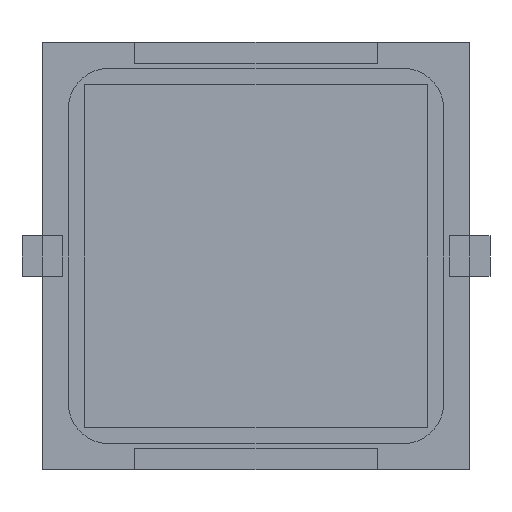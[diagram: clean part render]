
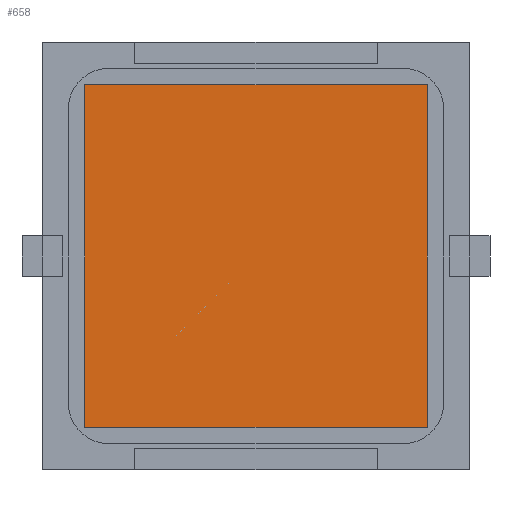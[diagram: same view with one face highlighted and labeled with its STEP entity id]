
A CAD part, front view. The second image highlights one B-rep face of the part: STEP entity #658.
In plain terms, the highlighted planar face has unit normal (0, -1, 0).
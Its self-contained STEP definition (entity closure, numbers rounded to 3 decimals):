
#251 = VECTOR ( 'NONE', #4261, 1000. ) ;
#343 = CARTESIAN_POINT ( 'NONE',  ( 8.5, -0.127, -8.5 ) ) ;
#648 = LINE ( 'NONE', #2027, #251 ) ;
#658 = ADVANCED_FACE ( 'NONE', ( #1097 ), #4706, .F. ) ;
#745 = DIRECTION ( 'NONE',  ( 1., 0., 0. ) ) ;
#995 = VERTEX_POINT ( 'NONE', #3003 ) ;
#1097 = FACE_OUTER_BOUND ( 'NONE', #2142, .T. ) ;
#1196 = LINE ( 'NONE', #4809, #4755 ) ;
#1236 = VERTEX_POINT ( 'NONE', #3675 ) ;
#1342 = CARTESIAN_POINT ( 'NONE',  ( 8.5, -0.127, -8.5 ) ) ;
#1421 = DIRECTION ( 'NONE',  ( -1., 0., 0. ) ) ;
#1427 = VERTEX_POINT ( 'NONE', #3615 ) ;
#1495 = EDGE_CURVE ( 'NONE', #1427, #3273, #3577, .T. ) ;
#1572 = AXIS2_PLACEMENT_3D ( 'NONE', #4773, #2077, #4259 ) ;
#2027 = CARTESIAN_POINT ( 'NONE',  ( -8.5, -0.127, -8.5 ) ) ;
#2077 = DIRECTION ( 'NONE',  ( 0., 1., 0. ) ) ;
#2142 = EDGE_LOOP ( 'NONE', ( #2507, #3390, #3123, #4596 ) ) ;
#2224 = DIRECTION ( 'NONE',  ( 0., 0., -1. ) ) ;
#2401 = CARTESIAN_POINT ( 'NONE',  ( -8.5, -0.127, -8.5 ) ) ;
#2434 = LINE ( 'NONE', #2401, #5509 ) ;
#2507 = ORIENTED_EDGE ( 'NONE', *, *, #3459, .F. ) ;
#2846 = VECTOR ( 'NONE', #2224, 1000. ) ;
#2931 = EDGE_CURVE ( 'NONE', #3273, #1236, #2434, .T. ) ;
#3003 = CARTESIAN_POINT ( 'NONE',  ( -8.5, -0.127, 8.5 ) ) ;
#3123 = ORIENTED_EDGE ( 'NONE', *, *, #1495, .F. ) ;
#3273 = VERTEX_POINT ( 'NONE', #343 ) ;
#3390 = ORIENTED_EDGE ( 'NONE', *, *, #2931, .F. ) ;
#3459 = EDGE_CURVE ( 'NONE', #1236, #995, #648, .T. ) ;
#3577 = LINE ( 'NONE', #1342, #2846 ) ;
#3615 = CARTESIAN_POINT ( 'NONE',  ( 8.5, -0.127, 8.5 ) ) ;
#3675 = CARTESIAN_POINT ( 'NONE',  ( -8.5, -0.127, -8.5 ) ) ;
#4259 = DIRECTION ( 'NONE',  ( 0., 0., 1. ) ) ;
#4261 = DIRECTION ( 'NONE',  ( 0., 0., 1. ) ) ;
#4596 = ORIENTED_EDGE ( 'NONE', *, *, #5173, .F. ) ;
#4706 = PLANE ( 'NONE',  #1572 ) ;
#4755 = VECTOR ( 'NONE', #745, 1000. ) ;
#4773 = CARTESIAN_POINT ( 'NONE',  ( -8.5, -0.127, 8.5 ) ) ;
#4809 = CARTESIAN_POINT ( 'NONE',  ( -8.5, -0.127, 8.5 ) ) ;
#5173 = EDGE_CURVE ( 'NONE', #995, #1427, #1196, .T. ) ;
#5509 = VECTOR ( 'NONE', #1421, 1000. ) ;
